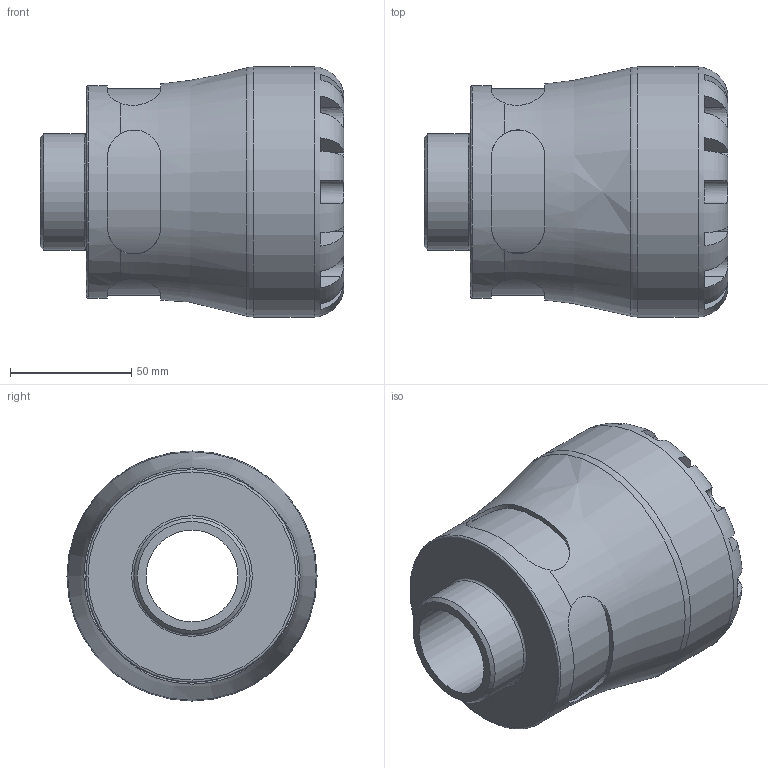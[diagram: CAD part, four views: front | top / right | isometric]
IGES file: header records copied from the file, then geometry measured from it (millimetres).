
Global section: file name: 100200063015_190200063015.ipt; native system: Autodesk Inventor 2015; preprocessor: unknown; author: KIM; date: 20170727.143956; units: millimetre
Bounding box: 125 x 103 x 103 mm (x, y, z)
Volume: 452478.9 mm3; surface area: 70683.2 mm2
Topology: 1 solids, 1 shells, 108 faces, 292 edges, 188 vertices
Faces by surface type: plane 68, revolution 24, cylinder 15, cone 1
Full cylindrical faces by diameter (mm): 47.803 x1, 87.55 x1, 103 x1
